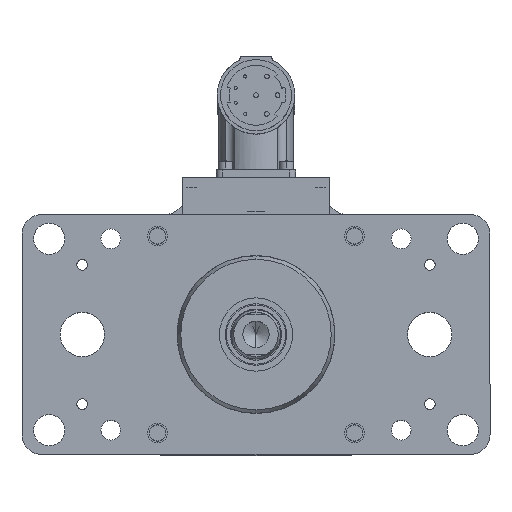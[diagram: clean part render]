
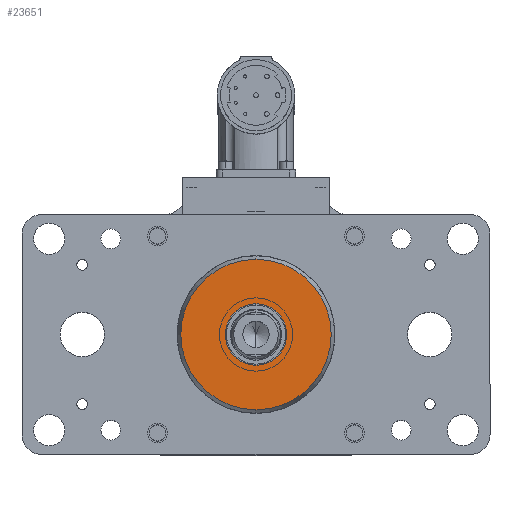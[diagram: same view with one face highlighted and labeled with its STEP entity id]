
A CAD part, top view. The second image highlights one B-rep face of the part: STEP entity #23651.
In plain terms, the highlighted planar face has unit normal (0, 0, 1).
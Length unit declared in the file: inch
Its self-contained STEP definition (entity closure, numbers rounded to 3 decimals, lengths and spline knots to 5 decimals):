
#1014 = EDGE_LOOP ( 'NONE', ( #23650, #23648 ) ) ;
#1776 = DIRECTION ( 'NONE',  ( 1., 0., 0. ) ) ;
#1777 = DIRECTION ( 'NONE',  ( 0., 0., 1. ) ) ;
#1779 = AXIS2_PLACEMENT_3D ( 'NONE', #1780, #1777, #1776 ) ;
#1780 = CARTESIAN_POINT ( 'NONE',  ( -1.273, 1.273, 0. ) ) ;
#1781 = PLANE ( 'NONE',  #1779 ) ;
#1782 = FACE_BOUND ( 'NONE', #8558, .T. ) ;
#1787 = FACE_OUTER_BOUND ( 'NONE', #1014, .T. ) ;
#5205 = CARTESIAN_POINT ( 'NONE',  ( 0.39, 0., 0. ) ) ;
#5635 = DIRECTION ( 'NONE',  ( 1., 0., 0. ) ) ;
#5636 = DIRECTION ( 'NONE',  ( 0., 0., 1. ) ) ;
#5637 = CARTESIAN_POINT ( 'NONE',  ( 0., 0., 0. ) ) ;
#5638 = AXIS2_PLACEMENT_3D ( 'NONE', #5637, #5636, #5635 ) ;
#5639 = CIRCLE ( 'NONE', #5638, 0.39 ) ;
#5771 = CARTESIAN_POINT ( 'NONE',  ( -0.39, 0., 0. ) ) ;
#5810 = DIRECTION ( 'NONE',  ( 1., 0., 0. ) ) ;
#5811 = DIRECTION ( 'NONE',  ( 0., 0., 1. ) ) ;
#5812 = CARTESIAN_POINT ( 'NONE',  ( 0., 0., 0. ) ) ;
#5813 = AXIS2_PLACEMENT_3D ( 'NONE', #5812, #5811, #5810 ) ;
#5814 = CIRCLE ( 'NONE', #5813, 0.39 ) ;
#5850 = DIRECTION ( 'NONE',  ( 1., 0., 0. ) ) ;
#5851 = DIRECTION ( 'NONE',  ( 0., 0., 1. ) ) ;
#5852 = CARTESIAN_POINT ( 'NONE',  ( 0., 0., 0. ) ) ;
#5853 = AXIS2_PLACEMENT_3D ( 'NONE', #5852, #5851, #5850 ) ;
#5854 = CIRCLE ( 'NONE', #5853, 0.9545 ) ;
#5859 = CARTESIAN_POINT ( 'NONE',  ( -0.9545, 0., 0. ) ) ;
#8558 = EDGE_LOOP ( 'NONE', ( #24207, #25236 ) ) ;
#14223 = EDGE_CURVE ( 'NONE', #25456, #15129, #18471, .T. ) ;
#15129 = VERTEX_POINT ( 'NONE', #20055 ) ;
#18468 = DIRECTION ( 'NONE',  ( 1., 0., 0. ) ) ;
#18469 = DIRECTION ( 'NONE',  ( 0., 0., 1. ) ) ;
#18470 = AXIS2_PLACEMENT_3D ( 'NONE', #18477, #18469, #18468 ) ;
#18471 = CIRCLE ( 'NONE', #18470, 0.9545 ) ;
#18477 = CARTESIAN_POINT ( 'NONE',  ( 0., 0., 0. ) ) ;
#20055 = CARTESIAN_POINT ( 'NONE',  ( 0.9545, 0., 0. ) ) ;
#23648 = ORIENTED_EDGE ( 'NONE', *, *, #25457, .T. ) ;
#23650 = ORIENTED_EDGE ( 'NONE', *, *, #14223, .T. ) ;
#23651 = ADVANCED_FACE ( 'NONE', ( #1787, #1782 ), #1781, .T. ) ;
#24207 = ORIENTED_EDGE ( 'NONE', *, *, #25308, .F. ) ;
#25075 = VERTEX_POINT ( 'NONE', #5205 ) ;
#25236 = ORIENTED_EDGE ( 'NONE', *, *, #25448, .F. ) ;
#25308 = EDGE_CURVE ( 'NONE', #25075, #25434, #5639, .T. ) ;
#25434 = VERTEX_POINT ( 'NONE', #5771 ) ;
#25448 = EDGE_CURVE ( 'NONE', #25434, #25075, #5814, .T. ) ;
#25456 = VERTEX_POINT ( 'NONE', #5859 ) ;
#25457 = EDGE_CURVE ( 'NONE', #15129, #25456, #5854, .T. ) ;
